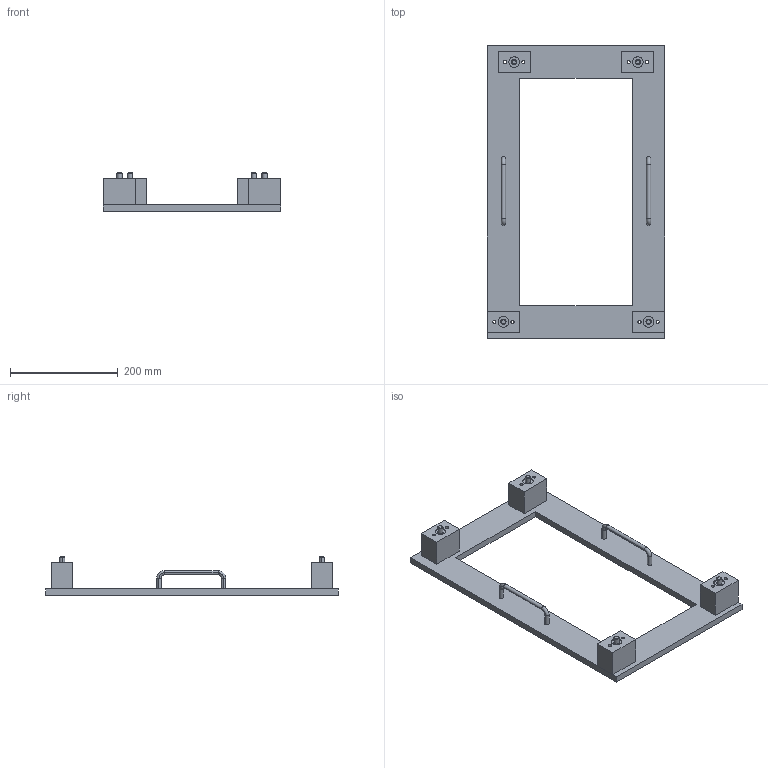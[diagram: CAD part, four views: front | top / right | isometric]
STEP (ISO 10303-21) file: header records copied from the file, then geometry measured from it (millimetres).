
FILE_DESCRIPTION(('CATIA V5 STEP Exchange'),'2;1');
FILE_NAME('C:\Users\22672\Desktop\ProductG3ZP.stp','2023-03-15T00:02:39+00:00',('none'),('none'),'CATIA Version 5 Release 21 GA (IN-10)','CATIA V5 STEP AP203','none');
FILE_SCHEMA(('CONFIG_CONTROL_DESIGN'));
Length unit declared in the file: millimetre
Products named in the file (1): ProductG3ZP
Assembly tree (11 placements, depth 2):
  ProductG3ZP
    #58
    #570
    #1082
    #1594
    #2106
    #2496
    #2886
    #3276
    #3666
    #5290
    #5561
Bounding box: 330 x 543 x 72 mm (x, y, z)
Volume: 1547374.5 mm3; surface area: 313265 mm2
Topology: 11 solids, 11 shells, 218 faces, 476 edges, 304 vertices
Faces by surface type: cylinder 116, plane 70, cone 24, torus 8
Entity records: 5799 total; most frequent: ORIENTED_EDGE 952, CARTESIAN_POINT 949, DIRECTION 814, EDGE_CURVE 476, AXIS2_PLACEMENT_3D 433, VERTEX_POINT 304, EDGE_LOOP 292, CIRCLE 264
